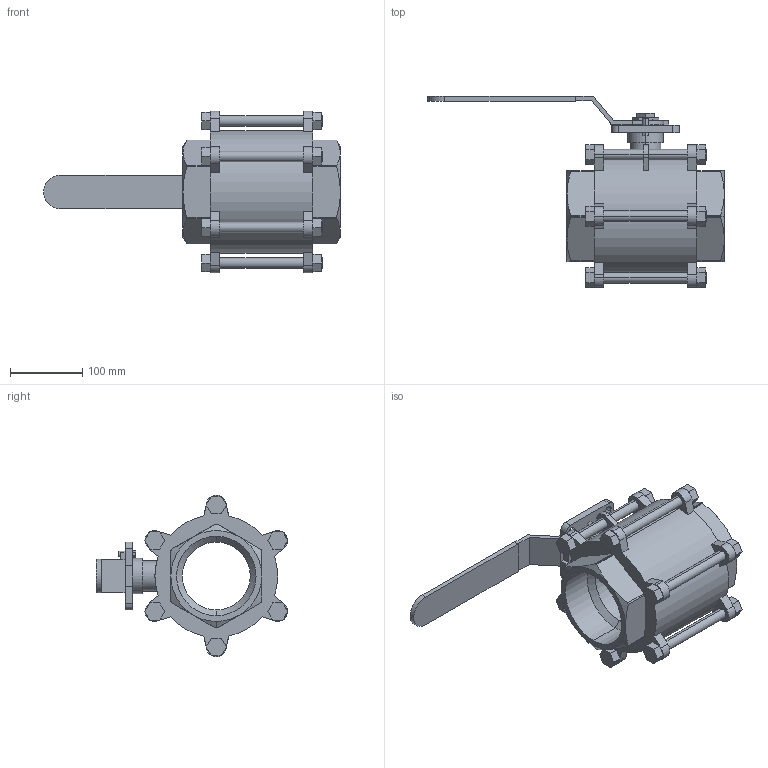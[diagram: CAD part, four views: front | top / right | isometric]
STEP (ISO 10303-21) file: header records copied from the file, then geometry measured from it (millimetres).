
FILE_DESCRIPTION (( 'STEP AP203' ), '1' );
FILE_NAME ('C3.622I100IFVPB0.STEP', '2018-10-12T15:03:03', ( '' ), ( '' ), 'SwSTEP 2.0', 'SolidWorks 2014', '' );
FILE_SCHEMA (( 'CONFIG_CONTROL_DESIGN' ));
Length unit declared in the file: millimetre
Products named in the file (1): C3.622I100IFVPB0
Bounding box: 411 x 265.66 x 224 mm (x, y, z)
Volume: 3053795.3 mm3; surface area: 333532.1 mm2
Topology: 1 solids, 1 shells, 413 faces, 1056 edges, 665 vertices
Faces by surface type: plane 300, cylinder 95, cone 18
Entity records: 12752 total; most frequent: CARTESIAN_POINT 2457, DIRECTION 2137, ORIENTED_EDGE 2112, EDGE_CURVE 1056, LINE 751, VECTOR 751, AXIS2_PLACEMENT_3D 693, VERTEX_POINT 665
